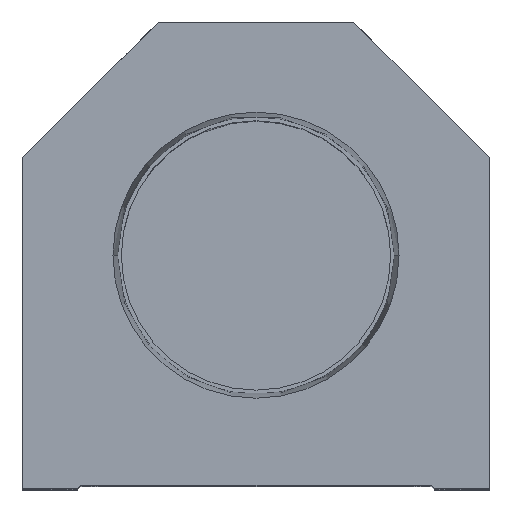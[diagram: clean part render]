
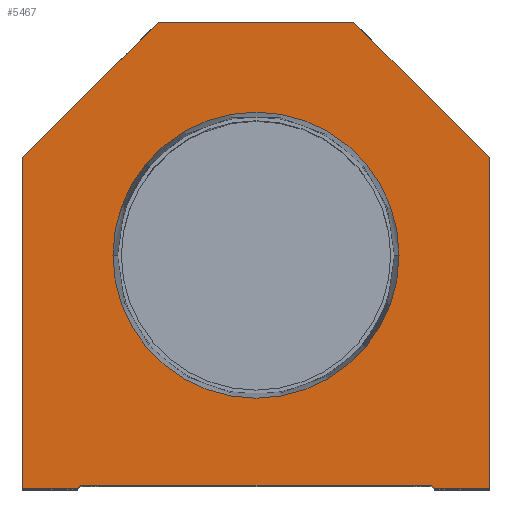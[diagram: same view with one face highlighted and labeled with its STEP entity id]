
A CAD part, top view. The second image highlights one B-rep face of the part: STEP entity #5467.
In plain terms, the highlighted planar face has unit normal (0, 0, 1).
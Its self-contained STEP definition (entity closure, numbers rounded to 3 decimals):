
#145 = VECTOR ( 'NONE', #16136, 1000. ) ;
#281 = VECTOR ( 'NONE', #16274, 1000. ) ;
#495 = ORIENTED_EDGE ( 'NONE', *, *, #6162, .F. ) ;
#605 = EDGE_CURVE ( 'NONE', #5080, #4479, #18131, .T. ) ;
#955 = VECTOR ( 'NONE', #4291, 1000. ) ;
#1141 = LINE ( 'NONE', #12605, #8699 ) ;
#1552 = EDGE_CURVE ( 'NONE', #9413, #3595, #1141, .T. ) ;
#1638 = LINE ( 'NONE', #14689, #955 ) ;
#1984 = CARTESIAN_POINT ( 'NONE',  ( -16., 76.2, 0. ) ) ;
#2160 = ORIENTED_EDGE ( 'NONE', *, *, #7081, .T. ) ;
#2609 = EDGE_LOOP ( 'NONE', ( #18053, #2160, #4419, #14885, #12243, #9254, #16229, #14112, #16567, #17210 ) ) ;
#3595 = VERTEX_POINT ( 'NONE', #16251 ) ;
#4075 = LINE ( 'NONE', #9831, #4584 ) ;
#4106 = AXIS2_PLACEMENT_3D ( 'NONE', #9684, #8147, #12738 ) ;
#4291 = DIRECTION ( 'NONE',  ( -0.707, 0.707, 0. ) ) ;
#4295 = DIRECTION ( 'NONE',  ( 0., -1., 0. ) ) ;
#4419 = ORIENTED_EDGE ( 'NONE', *, *, #1552, .T. ) ;
#4449 = VERTEX_POINT ( 'NONE', #7891 ) ;
#4469 = DIRECTION ( 'NONE',  ( 1., 0., 0. ) ) ;
#4479 = VERTEX_POINT ( 'NONE', #18366 ) ;
#4584 = VECTOR ( 'NONE', #13816, 1000. ) ;
#4590 = VECTOR ( 'NONE', #16658, 1000. ) ;
#4672 = EDGE_CURVE ( 'NONE', #13090, #4449, #15923, .T. ) ;
#4938 = ORIENTED_EDGE ( 'NONE', *, *, #16025, .F. ) ;
#5080 = VERTEX_POINT ( 'NONE', #1984 ) ;
#5107 = LINE ( 'NONE', #12017, #281 ) ;
#5127 = VECTOR ( 'NONE', #4469, 1000. ) ;
#5131 = CARTESIAN_POINT ( 'NONE',  ( -38.1, 54.1, 0. ) ) ;
#5382 = DIRECTION ( 'NONE',  ( 1., 0., 0. ) ) ;
#5467 = ADVANCED_FACE ( 'NONE', ( #6099, #10468 ), #9016, .T. ) ;
#5593 = CIRCLE ( 'NONE', #4106, 23.374 ) ;
#5752 = VECTOR ( 'NONE', #10103, 1000. ) ;
#5794 = CARTESIAN_POINT ( 'NONE',  ( -38.1, 0., 0. ) ) ;
#5798 = CIRCLE ( 'NONE', #12777, 23.374 ) ;
#5901 = CARTESIAN_POINT ( 'NONE',  ( 16., 76.2, 0. ) ) ;
#6099 = FACE_BOUND ( 'NONE', #7403, .T. ) ;
#6162 = EDGE_CURVE ( 'NONE', #11216, #17050, #5593, .T. ) ;
#6537 = EDGE_CURVE ( 'NONE', #12389, #8180, #4075, .T. ) ;
#7081 = EDGE_CURVE ( 'NONE', #4449, #9413, #5107, .T. ) ;
#7403 = EDGE_LOOP ( 'NONE', ( #495, #4938 ) ) ;
#7649 = CARTESIAN_POINT ( 'NONE',  ( 16., 76.2, 0. ) ) ;
#7891 = CARTESIAN_POINT ( 'NONE',  ( -29.1, 0., 0. ) ) ;
#8147 = DIRECTION ( 'NONE',  ( 0., 0., 1. ) ) ;
#8180 = VERTEX_POINT ( 'NONE', #14707 ) ;
#8296 = AXIS2_PLACEMENT_3D ( 'NONE', #11981, #10558, #16235 ) ;
#8423 = LINE ( 'NONE', #5794, #11518 ) ;
#8699 = VECTOR ( 'NONE', #5382, 1000. ) ;
#9016 = PLANE ( 'NONE',  #8296 ) ;
#9254 = ORIENTED_EDGE ( 'NONE', *, *, #14449, .T. ) ;
#9413 = VERTEX_POINT ( 'NONE', #15639 ) ;
#9684 = CARTESIAN_POINT ( 'NONE',  ( 0., 38.1, 0. ) ) ;
#9831 = CARTESIAN_POINT ( 'NONE',  ( 28.6, 0., 0. ) ) ;
#10103 = DIRECTION ( 'NONE',  ( 0.707, -0.707, 0. ) ) ;
#10267 = LINE ( 'NONE', #5901, #145 ) ;
#10468 = FACE_OUTER_BOUND ( 'NONE', #2609, .T. ) ;
#10487 = VERTEX_POINT ( 'NONE', #10907 ) ;
#10558 = DIRECTION ( 'NONE',  ( 0., 0., 1. ) ) ;
#10907 = CARTESIAN_POINT ( 'NONE',  ( 38.1, 54.1, 0. ) ) ;
#11216 = VERTEX_POINT ( 'NONE', #17063 ) ;
#11492 = CARTESIAN_POINT ( 'NONE',  ( -38.1, 0., 0. ) ) ;
#11518 = VECTOR ( 'NONE', #4295, 1000. ) ;
#11522 = CARTESIAN_POINT ( 'NONE',  ( 14.55, 14.55, 0. ) ) ;
#11757 = EDGE_CURVE ( 'NONE', #4479, #13090, #8423, .T. ) ;
#11981 = CARTESIAN_POINT ( 'NONE',  ( 0., 0., 0. ) ) ;
#12017 = CARTESIAN_POINT ( 'NONE',  ( -14.55, 14.55, 0. ) ) ;
#12200 = LINE ( 'NONE', #16369, #4590 ) ;
#12243 = ORIENTED_EDGE ( 'NONE', *, *, #6537, .T. ) ;
#12389 = VERTEX_POINT ( 'NONE', #17347 ) ;
#12605 = CARTESIAN_POINT ( 'NONE',  ( -28.6, 0.5, 0. ) ) ;
#12738 = DIRECTION ( 'NONE',  ( 1., 0., 0. ) ) ;
#12777 = AXIS2_PLACEMENT_3D ( 'NONE', #17218, #15779, #14273 ) ;
#12836 = CARTESIAN_POINT ( 'NONE',  ( -23.374, 38.1, 0. ) ) ;
#13090 = VERTEX_POINT ( 'NONE', #11492 ) ;
#13816 = DIRECTION ( 'NONE',  ( 1., 0., 0. ) ) ;
#14112 = ORIENTED_EDGE ( 'NONE', *, *, #17535, .T. ) ;
#14273 = DIRECTION ( 'NONE',  ( 1., 0., 0. ) ) ;
#14449 = EDGE_CURVE ( 'NONE', #8180, #10487, #12200, .T. ) ;
#14669 = EDGE_CURVE ( 'NONE', #3595, #12389, #15496, .T. ) ;
#14689 = CARTESIAN_POINT ( 'NONE',  ( 38.1, 54.1, 0. ) ) ;
#14707 = CARTESIAN_POINT ( 'NONE',  ( 38.1, 0., 0. ) ) ;
#14885 = ORIENTED_EDGE ( 'NONE', *, *, #14669, .T. ) ;
#15496 = LINE ( 'NONE', #11522, #5752 ) ;
#15639 = CARTESIAN_POINT ( 'NONE',  ( -28.6, 0.5, 0. ) ) ;
#15664 = EDGE_CURVE ( 'NONE', #10487, #16326, #1638, .T. ) ;
#15779 = DIRECTION ( 'NONE',  ( 0., 0., 1. ) ) ;
#15923 = LINE ( 'NONE', #17372, #5127 ) ;
#16025 = EDGE_CURVE ( 'NONE', #17050, #11216, #5798, .T. ) ;
#16136 = DIRECTION ( 'NONE',  ( -1., 0., 0. ) ) ;
#16229 = ORIENTED_EDGE ( 'NONE', *, *, #15664, .T. ) ;
#16235 = DIRECTION ( 'NONE',  ( 1., 0., 0. ) ) ;
#16251 = CARTESIAN_POINT ( 'NONE',  ( 28.6, 0.5, 0. ) ) ;
#16274 = DIRECTION ( 'NONE',  ( 0.707, 0.707, 0. ) ) ;
#16326 = VERTEX_POINT ( 'NONE', #7649 ) ;
#16369 = CARTESIAN_POINT ( 'NONE',  ( 38.1, 0., 0. ) ) ;
#16552 = VECTOR ( 'NONE', #18327, 1000. ) ;
#16567 = ORIENTED_EDGE ( 'NONE', *, *, #605, .T. ) ;
#16658 = DIRECTION ( 'NONE',  ( 0., 1., 0. ) ) ;
#17050 = VERTEX_POINT ( 'NONE', #12836 ) ;
#17063 = CARTESIAN_POINT ( 'NONE',  ( 23.374, 38.1, 0. ) ) ;
#17210 = ORIENTED_EDGE ( 'NONE', *, *, #11757, .T. ) ;
#17218 = CARTESIAN_POINT ( 'NONE',  ( 0., 38.1, 0. ) ) ;
#17347 = CARTESIAN_POINT ( 'NONE',  ( 29.1, 0., 0. ) ) ;
#17372 = CARTESIAN_POINT ( 'NONE',  ( -28.6, 0., 0. ) ) ;
#17535 = EDGE_CURVE ( 'NONE', #16326, #5080, #10267, .T. ) ;
#18053 = ORIENTED_EDGE ( 'NONE', *, *, #4672, .T. ) ;
#18131 = LINE ( 'NONE', #5131, #16552 ) ;
#18327 = DIRECTION ( 'NONE',  ( -0.707, -0.707, 0. ) ) ;
#18366 = CARTESIAN_POINT ( 'NONE',  ( -38.1, 54.1, 0. ) ) ;
